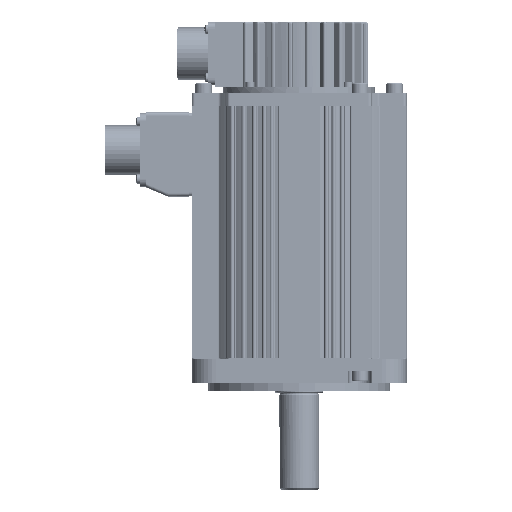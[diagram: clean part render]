
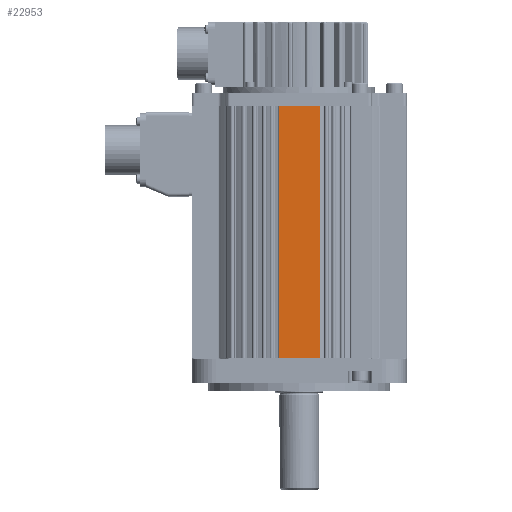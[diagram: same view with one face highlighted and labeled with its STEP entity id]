
A CAD part, left-side view. The second image highlights one B-rep face of the part: STEP entity #22953.
In plain terms, the highlighted planar face has unit normal (-1, 0, 0) as drawn and (0, 1, 0) by its records, which use the part's own axes.
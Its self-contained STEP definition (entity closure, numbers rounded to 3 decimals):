
#6763=DIRECTION('',(0.,0.,-1.));
#6764=VECTOR('',#6763,24.632);
#6765=CARTESIAN_POINT('',(152.,65.,12.3));
#6766=LINE('',#6765,#6764);
#9654=DIRECTION('',(1.,0.,0.));
#9655=VECTOR('',#9654,152.);
#9656=CARTESIAN_POINT('',(0.,65.,12.3));
#9657=LINE('',#9656,#9655);
#9658=DIRECTION('',(0.,0.,-1.));
#9659=VECTOR('',#9658,24.632);
#9660=CARTESIAN_POINT('',(0.,65.,12.3));
#9661=LINE('',#9660,#9659);
#9666=DIRECTION('',(-1.,0.,0.));
#9667=VECTOR('',#9666,152.);
#9668=CARTESIAN_POINT('',(152.,65.,-12.332));
#9669=LINE('',#9668,#9667);
#10978=CARTESIAN_POINT('',(0.,65.,-12.332));
#10979=VERTEX_POINT('',#10978);
#10980=CARTESIAN_POINT('',(0.,65.,12.3));
#10981=VERTEX_POINT('',#10980);
#13075=CARTESIAN_POINT('',(152.,65.,12.3));
#13076=VERTEX_POINT('',#13075);
#13077=CARTESIAN_POINT('',(152.,65.,-12.332));
#13078=VERTEX_POINT('',#13077);
#22941=CARTESIAN_POINT('',(0.,65.,-65.));
#22942=DIRECTION('',(0.,1.,0.));
#22943=DIRECTION('',(0.,0.,1.));
#22944=AXIS2_PLACEMENT_3D('',#22941,#22942,#22943);
#22945=PLANE('',#22944);
#22947=ORIENTED_EDGE('',*,*,#22946,.F.);
#22948=ORIENTED_EDGE('',*,*,#16041,.F.);
#22949=ORIENTED_EDGE('',*,*,#22936,.F.);
#22950=ORIENTED_EDGE('',*,*,#13721,.T.);
#22951=EDGE_LOOP('',(#22947,#22948,#22949,#22950));
#22952=FACE_OUTER_BOUND('',#22951,.F.);
#22953=ADVANCED_FACE('',(#22952),#22945,.T.);
#13721=EDGE_CURVE('',#10981,#10979,#9661,.T.);
#16041=EDGE_CURVE('',#13076,#13078,#6766,.T.);
#22936=EDGE_CURVE('',#10981,#13076,#9657,.T.);
#22946=EDGE_CURVE('',#13078,#10979,#9669,.T.);
